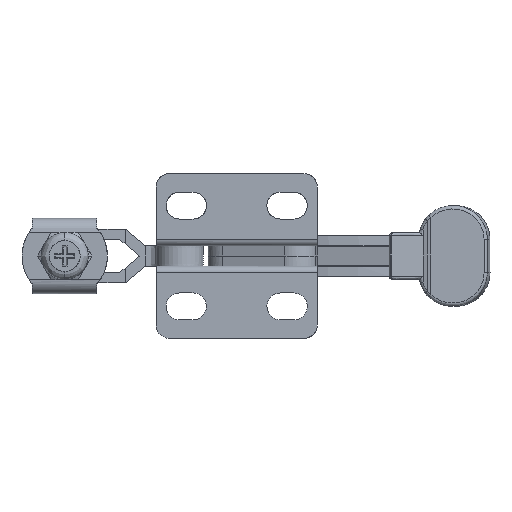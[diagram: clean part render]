
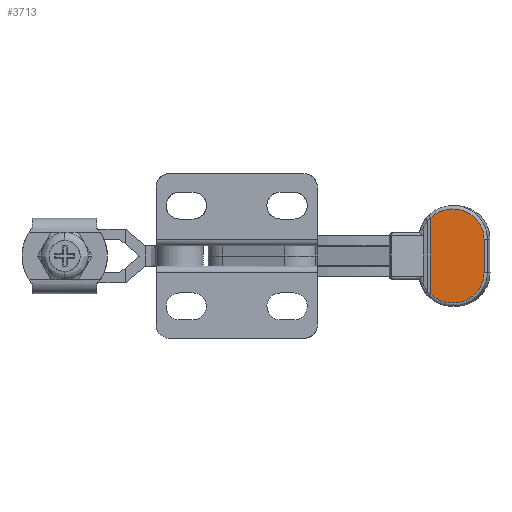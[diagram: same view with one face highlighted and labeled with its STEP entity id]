
A CAD part, front view. The second image highlights one B-rep face of the part: STEP entity #3713.
In plain terms, the highlighted planar face has unit normal (-0.001, 1, 0).
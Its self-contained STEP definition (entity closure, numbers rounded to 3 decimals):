
#3661=AXIS2_PLACEMENT_3D('Plane Axis2P3D',#3658,#3659,#3660) ;
#1029=CARTESIAN_POINT('Vertex',(16.895,11.555,4.2)) ;
#1086=CARTESIAN_POINT('Control Point',(16.895,11.555,4.2)) ;
#1087=CARTESIAN_POINT('Control Point',(17.863,11.556,5.14)) ;
#1088=CARTESIAN_POINT('Control Point',(20.221,11.558,5.922)) ;
#1089=CARTESIAN_POINT('Control Point',(23.742,11.561,4.499)) ;
#1090=CARTESIAN_POINT('Control Point',(24.824,11.562,2.326)) ;
#1091=CARTESIAN_POINT('Control Point',(24.813,11.562,0.999)) ;
#1092=CARTESIAN_POINT('Vertex',(24.813,11.562,0.999)) ;
#2653=CARTESIAN_POINT('Vertex',(16.895,11.555,-7.203)) ;
#2944=CARTESIAN_POINT('Control Point',(24.813,11.562,-4.001)) ;
#2945=CARTESIAN_POINT('Control Point',(24.824,11.562,-5.328)) ;
#2946=CARTESIAN_POINT('Control Point',(23.742,11.561,-7.501)) ;
#2947=CARTESIAN_POINT('Control Point',(20.221,11.558,-8.925)) ;
#2948=CARTESIAN_POINT('Control Point',(17.863,11.556,-8.143)) ;
#2949=CARTESIAN_POINT('Control Point',(16.895,11.555,-7.203)) ;
#2950=CARTESIAN_POINT('Vertex',(24.813,11.562,-4.001)) ;
#3658=CARTESIAN_POINT('Axis2P3D Location',(24.813,11.562,-8.585)) ;
#3663=CARTESIAN_POINT('Line Origine',(24.813,11.562,-1.501)) ;
#3669=CARTESIAN_POINT('Control Point',(16.895,11.555,-7.271)) ;
#3670=CARTESIAN_POINT('Control Point',(16.895,11.555,-7.265)) ;
#3671=CARTESIAN_POINT('Control Point',(16.895,11.555,-7.259)) ;
#3672=CARTESIAN_POINT('Control Point',(16.895,11.555,-7.254)) ;
#3673=CARTESIAN_POINT('Control Point',(16.895,11.555,-7.224)) ;
#3674=CARTESIAN_POINT('Control Point',(16.895,11.555,-7.208)) ;
#3675=CARTESIAN_POINT('Control Point',(16.895,11.555,-7.203)) ;
#3676=CARTESIAN_POINT('Control Point',(16.895,11.555,-7.203)) ;
#3677=CARTESIAN_POINT('Control Point',(16.895,11.555,-7.203)) ;
#3678=CARTESIAN_POINT('Vertex',(16.895,11.555,-7.271)) ;
#3682=CARTESIAN_POINT('Control Point',(16.895,11.555,-8.585)) ;
#3683=CARTESIAN_POINT('Control Point',(16.895,11.555,-8.461)) ;
#3684=CARTESIAN_POINT('Control Point',(16.895,11.555,-8.334)) ;
#3685=CARTESIAN_POINT('Control Point',(16.895,11.555,-8.208)) ;
#3686=CARTESIAN_POINT('Control Point',(16.895,11.555,-7.88)) ;
#3687=CARTESIAN_POINT('Control Point',(16.895,11.555,-7.592)) ;
#3688=CARTESIAN_POINT('Control Point',(16.895,11.555,-7.439)) ;
#3689=CARTESIAN_POINT('Control Point',(16.895,11.555,-7.334)) ;
#3690=CARTESIAN_POINT('Control Point',(16.895,11.555,-7.271)) ;
#3691=CARTESIAN_POINT('Vertex',(16.895,11.555,-8.585)) ;
#3694=CARTESIAN_POINT('Line Origine',(16.895,11.555,-7.928)) ;
#3699=CARTESIAN_POINT('Line Origine',(16.895,11.555,-1.535)) ;
#3659=DIRECTION('Axis2P3D Direction',(-0.001,1.,-0.)) ;
#3660=DIRECTION('Axis2P3D XDirection',(-1.,-0.001,0.)) ;
#3664=DIRECTION('Vector Direction',(0.,0.,1.)) ;
#3695=DIRECTION('Vector Direction',(0.,0.,-1.)) ;
#3700=DIRECTION('Vector Direction',(0.,0.,-1.)) ;
#3665=VECTOR('Line Direction',#3664,1.) ;
#3696=VECTOR('Line Direction',#3695,1.) ;
#3701=VECTOR('Line Direction',#3700,1.) ;
#3705=ORIENTED_EDGE('',*,*,#1094,.T.) ;
#3706=ORIENTED_EDGE('',*,*,#3667,.F.) ;
#3707=ORIENTED_EDGE('',*,*,#2952,.T.) ;
#3708=ORIENTED_EDGE('',*,*,#3680,.F.) ;
#3709=ORIENTED_EDGE('',*,*,#3693,.F.) ;
#3710=ORIENTED_EDGE('',*,*,#3698,.T.) ;
#3711=ORIENTED_EDGE('',*,*,#3703,.F.) ;
#3713=ADVANCED_FACE('Closed Shell',(#3712),#3662,.T.) ;
#3668=B_SPLINE_CURVE_WITH_KNOTS('',5,(#3669,#3670,#3671,#3672,#3673,#3674,#3675,#3676,#3677),.UNSPECIFIED.,.F.,.U.,(6,3,6),(3.399,3.604,4.67),.UNSPECIFIED.) ;
#3681=B_SPLINE_CURVE_WITH_KNOTS('',5,(#3682,#3683,#3684,#3685,#3686,#3687,#3688,#3689,#3690),.UNSPECIFIED.,.F.,.U.,(6,3,6),(0.,1.27,3.399),.UNSPECIFIED.) ;
#1094=EDGE_CURVE('',#1030,#1093,#1085,.T.) ;
#2952=EDGE_CURVE('',#2951,#2654,#2943,.T.) ;
#3667=EDGE_CURVE('',#2951,#1093,#3666,.T.) ;
#3680=EDGE_CURVE('',#3679,#2654,#3668,.T.) ;
#3693=EDGE_CURVE('',#3692,#3679,#3681,.T.) ;
#3698=EDGE_CURVE('',#3692,#3679,#3697,.F.) ;
#3703=EDGE_CURVE('',#1030,#3679,#3702,.T.) ;
#3704=EDGE_LOOP('',(#3705,#3706,#3707,#3708,#3709,#3710,#3711)) ;
#3712=FACE_OUTER_BOUND('',#3704,.T.) ;
#3666=LINE('Line',#3663,#3665) ;
#3697=LINE('Line',#3694,#3696) ;
#3702=LINE('Line',#3699,#3701) ;
#3662=PLANE('Plane',#3661) ;
#1030=VERTEX_POINT('',#1029) ;
#1093=VERTEX_POINT('',#1092) ;
#2654=VERTEX_POINT('',#2653) ;
#2951=VERTEX_POINT('',#2950) ;
#3679=VERTEX_POINT('',#3678) ;
#3692=VERTEX_POINT('',#3691) ;
#1085=(BOUNDED_CURVE()B_SPLINE_CURVE(3,(#1086,#1087,#1088,#1089,#1090,#1091),.UNSPECIFIED.,.F.,.U.)B_SPLINE_CURVE_WITH_KNOTS((4,1,1,4),(0.792,5.134,8.028,12.37),.UNSPECIFIED.)CURVE()GEOMETRIC_REPRESENTATION_ITEM()RATIONAL_B_SPLINE_CURVE((1.,1.,1.,1.,1.,1.))REPRESENTATION_ITEM('')) ;
#2943=(BOUNDED_CURVE()B_SPLINE_CURVE(3,(#2944,#2945,#2946,#2947,#2948,#2949),.UNSPECIFIED.,.F.,.U.)B_SPLINE_CURVE_WITH_KNOTS((4,1,1,4),(3.142,7.484,10.378,14.72),.UNSPECIFIED.)CURVE()GEOMETRIC_REPRESENTATION_ITEM()RATIONAL_B_SPLINE_CURVE((1.,1.,1.,1.,1.,1.))REPRESENTATION_ITEM('')) ;
